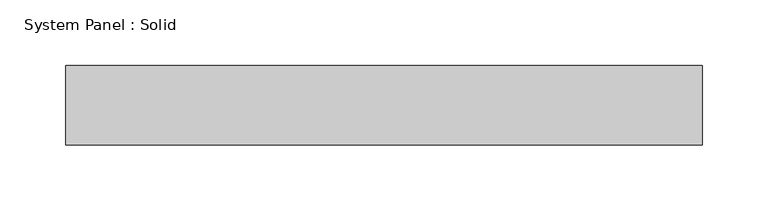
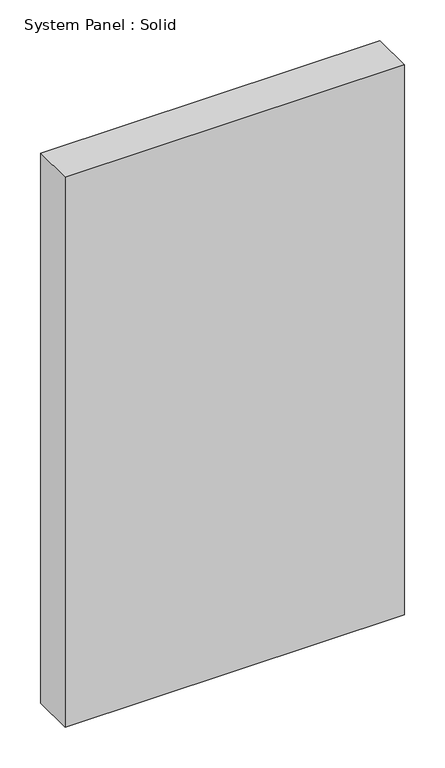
"""IFC4 building model written with IfcOpenShell, lengths in millimetres: plate geometry, System Panel : Solid."""

from ifc_helpers import new_model, si_unit, origin, origin_with_axes, place, context, project, spatial, polyline, outline, extrude, source, transform, mapped, element, save


def system_panel_solid_02889cea(model_context):
    return source(origin(), model_context, "Body", "SweptSolid", [
        extrude(outline(polyline([(241.0416667, -10.5), (-241.0416667, -10.5), (-241.0416667, 49.5), (241.0416667, 49.5), (241.0416667, -10.5)])), origin_with_axes(), (0.0, 0.0, 1.0), 825.0),
    ])


if __name__ == "__main__":
    model = new_model("IFC4")
    model_context = context("Model", 3, world=origin())
    ifc_project = project(units=[si_unit("LENGTHUNIT", "METRE", prefix="MILLI")], contexts=[model_context])
    site = spatial("IfcSite", under=ifc_project)
    building = spatial("IfcBuilding", under=site)
    placement = place(None, origin())
    system_panel_solid_shape = system_panel_solid_02889cea(model_context)
    element("IfcPlate", 1, ObjectType="System Panel : Solid", at=placement, inside=building, context=model_context, shape_type="MappedRepresentation", body=[
        mapped(system_panel_solid_shape, transform((0.0, 0.0, 0.0), x_axis=(1.0, 0.0, 0.0), y_axis=(0.0, 1.0, 0.0), z_axis=(0.0, 0.0, 1.0))),
    ])
    save(model, "model.ifc")
